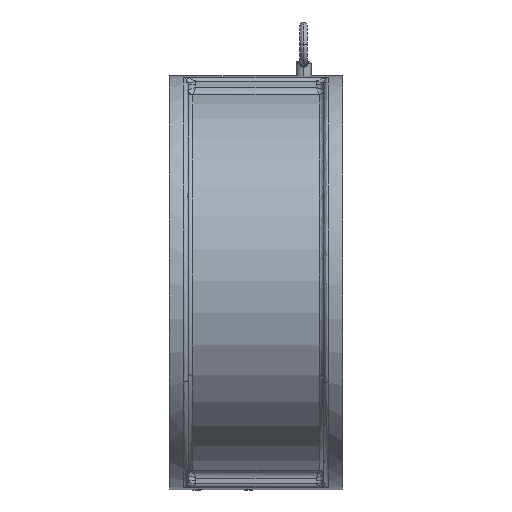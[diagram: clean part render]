
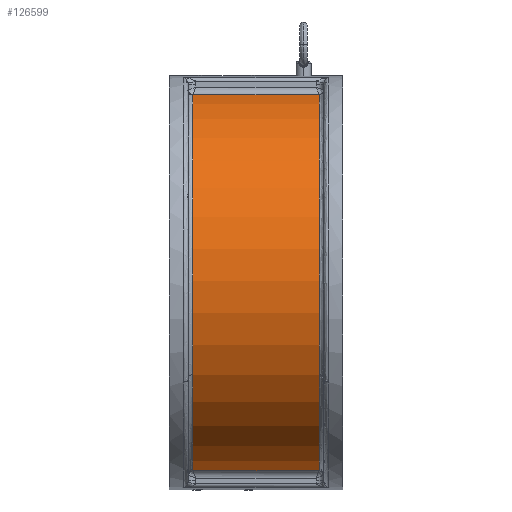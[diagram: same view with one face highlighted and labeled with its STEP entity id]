
A CAD part, left-side view. The second image highlights one B-rep face of the part: STEP entity #126599.
In plain terms, the highlighted cylindrical face has radius 204 mm (diameter 408 mm), a partial arc.
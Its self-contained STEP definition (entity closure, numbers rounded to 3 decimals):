
#1445 = CARTESIAN_POINT ( 'NONE',  ( 0., 25., 0. ) ) ;
#2305 = CARTESIAN_POINT ( 'NONE',  ( -41.377, 92., -199.76 ) ) ;
#3760 = CARTESIAN_POINT ( 'NONE',  ( -41.732, 25.006, -199.686 ) ) ;
#3966 = CIRCLE ( 'NONE', #138227, 204. ) ;
#6289 = VERTEX_POINT ( 'NONE', #30769 ) ;
#7392 = LINE ( 'NONE', #122152, #67016 ) ;
#7860 = CARTESIAN_POINT ( 'NONE',  ( -41.771, 159., 199.678 ) ) ;
#11257 = DIRECTION ( 'NONE',  ( 0., 0., -1. ) ) ;
#12087 = DIRECTION ( 'NONE',  ( -0.206, 0., 0.979 ) ) ;
#12315 = EDGE_CURVE ( 'NONE', #83597, #102058, #22807, .T. ) ;
#15117 = DIRECTION ( 'NONE',  ( -0.206, 0., 0.979 ) ) ;
#17517 = ORIENTED_EDGE ( 'NONE', *, *, #89555, .T. ) ;
#17613 = CARTESIAN_POINT ( 'NONE',  ( -41.377, 158.938, 199.76 ) ) ;
#22807 = LINE ( 'NONE', #2305, #58959 ) ;
#23334 = AXIS2_PLACEMENT_3D ( 'NONE', #1445, #96645, #15117 ) ;
#24775 = CARTESIAN_POINT ( 'NONE',  ( -41.971, 159., -199.636 ) ) ;
#27280 = CARTESIAN_POINT ( 'NONE',  ( -41.613, 25.019, 199.711 ) ) ;
#30769 = CARTESIAN_POINT ( 'NONE',  ( -41.377, 25.062, 199.76 ) ) ;
#34373 = VERTEX_POINT ( 'NONE', #62153 ) ;
#35135 = ORIENTED_EDGE ( 'NONE', *, *, #85296, .F. ) ;
#35238 = CARTESIAN_POINT ( 'NONE',  ( 0., 25., 0. ) ) ;
#36248 = EDGE_CURVE ( 'NONE', #83424, #102058, #111956, .T. ) ;
#36493 = CARTESIAN_POINT ( 'NONE',  ( 0., 159., 0. ) ) ;
#36912 = EDGE_CURVE ( 'NONE', #78706, #143541, #80385, .T. ) ;
#39826 = CARTESIAN_POINT ( 'NONE',  ( -41.971, 25., 199.636 ) ) ;
#40980 = CARTESIAN_POINT ( 'NONE',  ( -41.852, 25., 199.661 ) ) ;
#44801 = CARTESIAN_POINT ( 'NONE',  ( -41.971, 25., -199.636 ) ) ;
#45183 = VERTEX_POINT ( 'NONE', #119984 ) ;
#46131 = CIRCLE ( 'NONE', #23334, 204. ) ;
#48918 = DIRECTION ( 'NONE',  ( -0.878, 0., -0.479 ) ) ;
#50160 = DIRECTION ( 'NONE',  ( -0.878, 0., -0.479 ) ) ;
#52124 = CARTESIAN_POINT ( 'NONE',  ( -41.573, 158.979, -199.719 ) ) ;
#52763 = ORIENTED_EDGE ( 'NONE', *, *, #155578, .T. ) ;
#54057 = DIRECTION ( 'NONE',  ( 0., -1., 0. ) ) ;
#58481 = CARTESIAN_POINT ( 'NONE',  ( -41.494, 25.038, -199.735 ) ) ;
#58959 = VECTOR ( 'NONE', #109982, 1000. ) ;
#59975 = ORIENTED_EDGE ( 'NONE', *, *, #109155, .T. ) ;
#60155 = CYLINDRICAL_SURFACE ( 'NONE', #156284, 204. ) ;
#60773 = VERTEX_POINT ( 'NONE', #39826 ) ;
#62153 = CARTESIAN_POINT ( 'NONE',  ( -41.971, 159., -199.636 ) ) ;
#65759 = VERTEX_POINT ( 'NONE', #175293 ) ;
#67016 = VECTOR ( 'NONE', #108477, 1000. ) ;
#70275 = ORIENTED_EDGE ( 'NONE', *, *, #12315, .T. ) ;
#72309 = EDGE_CURVE ( 'NONE', #83424, #45183, #3966, .T. ) ;
#74556 = ORIENTED_EDGE ( 'NONE', *, *, #162630, .T. ) ;
#78706 = VERTEX_POINT ( 'NONE', #17613 ) ;
#80385 = B_SPLINE_CURVE_WITH_KNOTS ( 'NONE', 3,
 ( #157141, #89388, #7860, #103048 ),
 .UNSPECIFIED., .F., .F.,
 ( 4, 4 ),
 ( 0., 1. ),
 .UNSPECIFIED. ) ;
#83424 = VERTEX_POINT ( 'NONE', #126715 ) ;
#83597 = VERTEX_POINT ( 'NONE', #113024 ) ;
#85296 = EDGE_CURVE ( 'NONE', #6289, #60773, #134805, .T. ) ;
#89388 = CARTESIAN_POINT ( 'NONE',  ( -41.573, 158.979, 199.719 ) ) ;
#89555 = EDGE_CURVE ( 'NONE', #45183, #60773, #46131, .T. ) ;
#90369 = ORIENTED_EDGE ( 'NONE', *, *, #154512, .T. ) ;
#90492 = CARTESIAN_POINT ( 'NONE',  ( -41.377, 25.062, -199.76 ) ) ;
#91700 = ORIENTED_EDGE ( 'NONE', *, *, #72309, .T. ) ;
#93621 = DIRECTION ( 'NONE',  ( 0., -1., 0. ) ) ;
#96645 = DIRECTION ( 'NONE',  ( 0., 1., 0. ) ) ;
#98945 = CARTESIAN_POINT ( 'NONE',  ( -41.852, 25., -199.661 ) ) ;
#100541 = CIRCLE ( 'NONE', #149783, 204. ) ;
#102058 = VERTEX_POINT ( 'NONE', #90492 ) ;
#103048 = CARTESIAN_POINT ( 'NONE',  ( -41.971, 159., 199.636 ) ) ;
#106429 = CARTESIAN_POINT ( 'NONE',  ( 0., 159., 0. ) ) ;
#108477 = DIRECTION ( 'NONE',  ( 0., 1., 0. ) ) ;
#109155 = EDGE_CURVE ( 'NONE', #6289, #78706, #7392, .T. ) ;
#109623 = CARTESIAN_POINT ( 'NONE',  ( -41.971, 159., 199.636 ) ) ;
#109982 = DIRECTION ( 'NONE',  ( 0., -1., 0. ) ) ;
#111956 = B_SPLINE_CURVE_WITH_KNOTS ( 'NONE', 5,
 ( #44801, #98945, #3760, #139967, #58481, #153626 ),
 .UNSPECIFIED., .F., .F.,
 ( 6, 6 ),
 ( 0., 1. ),
 .UNSPECIFIED. ) ;
#113024 = CARTESIAN_POINT ( 'NONE',  ( -41.377, 158.938, -199.76 ) ) ;
#113285 = AXIS2_PLACEMENT_3D ( 'NONE', #36493, #131665, #50160 ) ;
#113310 = CIRCLE ( 'NONE', #113285, 204. ) ;
#119685 = ORIENTED_EDGE ( 'NONE', *, *, #36248, .F. ) ;
#119984 = CARTESIAN_POINT ( 'NONE',  ( -179.027, 25., -97.803 ) ) ;
#122152 = CARTESIAN_POINT ( 'NONE',  ( -41.377, 92., 199.76 ) ) ;
#122436 = CARTESIAN_POINT ( 'NONE',  ( -41.732, 25.006, 199.686 ) ) ;
#126599 = ADVANCED_FACE ( 'NONE', ( #136806 ), #60155, .T. ) ;
#126715 = CARTESIAN_POINT ( 'NONE',  ( -41.971, 25., -199.636 ) ) ;
#130418 = DIRECTION ( 'NONE',  ( 0., 1., 0. ) ) ;
#131665 = DIRECTION ( 'NONE',  ( 0., -1., 0. ) ) ;
#133625 = CARTESIAN_POINT ( 'NONE',  ( -41.771, 159., -199.678 ) ) ;
#134805 = B_SPLINE_CURVE_WITH_KNOTS ( 'NONE', 5,
 ( #149201, #134976, #27280, #122436, #40980, #136126 ),
 .UNSPECIFIED., .F., .F.,
 ( 6, 6 ),
 ( 0., 1. ),
 .UNSPECIFIED. ) ;
#134976 = CARTESIAN_POINT ( 'NONE',  ( -41.494, 25.038, 199.735 ) ) ;
#136065 = ORIENTED_EDGE ( 'NONE', *, *, #36912, .T. ) ;
#136126 = CARTESIAN_POINT ( 'NONE',  ( -41.971, 25., 199.636 ) ) ;
#136806 = FACE_OUTER_BOUND ( 'NONE', #138087, .T. ) ;
#138087 = EDGE_LOOP ( 'NONE', ( #91700, #17517, #35135, #59975, #136065, #52763, #90369, #74556, #70275, #119685 ) ) ;
#138227 = AXIS2_PLACEMENT_3D ( 'NONE', #35238, #130418, #48918 ) ;
#139967 = CARTESIAN_POINT ( 'NONE',  ( -41.613, 25.019, -199.711 ) ) ;
#143541 = VERTEX_POINT ( 'NONE', #109623 ) ;
#147266 = CARTESIAN_POINT ( 'NONE',  ( -41.377, 158.938, -199.76 ) ) ;
#149201 = CARTESIAN_POINT ( 'NONE',  ( -41.377, 25.062, 199.76 ) ) ;
#149783 = AXIS2_PLACEMENT_3D ( 'NONE', #175032, #93621, #12087 ) ;
#153626 = CARTESIAN_POINT ( 'NONE',  ( -41.377, 25.062, -199.76 ) ) ;
#154512 = EDGE_CURVE ( 'NONE', #65759, #34373, #113310, .T. ) ;
#155578 = EDGE_CURVE ( 'NONE', #143541, #65759, #100541, .T. ) ;
#156284 = AXIS2_PLACEMENT_3D ( 'NONE', #106429, #54057, #11257 ) ;
#157141 = CARTESIAN_POINT ( 'NONE',  ( -41.377, 158.938, 199.76 ) ) ;
#162630 = EDGE_CURVE ( 'NONE', #34373, #83597, #173660, .T. ) ;
#173660 = B_SPLINE_CURVE_WITH_KNOTS ( 'NONE', 3,
 ( #24775, #133625, #52124, #147266 ),
 .UNSPECIFIED., .F., .F.,
 ( 4, 4 ),
 ( 0., 1. ),
 .UNSPECIFIED. ) ;
#175032 = CARTESIAN_POINT ( 'NONE',  ( 0., 159., 0. ) ) ;
#175293 = CARTESIAN_POINT ( 'NONE',  ( -179.027, 159., -97.803 ) ) ;
